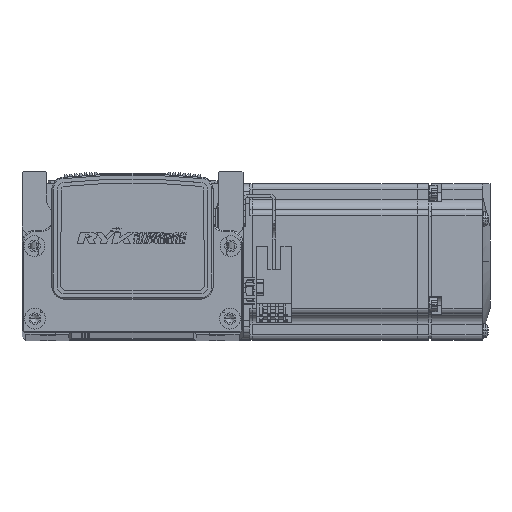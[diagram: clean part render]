
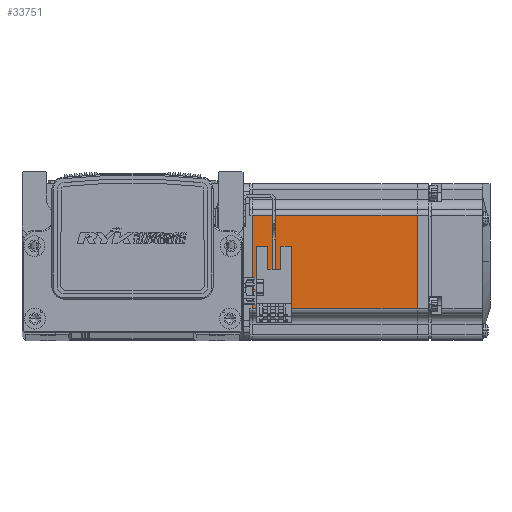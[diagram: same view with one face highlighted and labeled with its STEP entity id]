
A CAD part, top view. The second image highlights one B-rep face of the part: STEP entity #33751.
In plain terms, the highlighted planar face has unit normal (0, 0, 1) as drawn and (0, 0, -1) by its records, which use the part's own axes.
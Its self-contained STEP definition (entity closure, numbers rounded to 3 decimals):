
#1371 = CARTESIAN_POINT ( 'NONE',  ( -6.5, 18., -30. ) ) ;
#1372 = DIRECTION ( 'NONE',  ( 1., 0., 0. ) ) ;
#3146 = EDGE_CURVE ( 'NONE', #73554, #68743, #59212, .T. ) ;
#3271 = EDGE_CURVE ( 'NONE', #71660, #73554, #59255, .T. ) ;
#3324 = EDGE_CURVE ( 'NONE', #71370, #71660, #59351, .T. ) ;
#3356 = EDGE_CURVE ( 'NONE', #68743, #71370, #59342, .T. ) ;
#5675 = ORIENTED_EDGE ( 'NONE', *, *, #3271, .T. ) ;
#5686 = ORIENTED_EDGE ( 'NONE', *, *, #3146, .T. ) ;
#5688 = ORIENTED_EDGE ( 'NONE', *, *, #3356, .T. ) ;
#5693 = ORIENTED_EDGE ( 'NONE', *, *, #3324, .T. ) ;
#25707 = CARTESIAN_POINT ( 'NONE',  ( -7.75, 18., -30. ) ) ;
#30231 = CARTESIAN_POINT ( 'NONE',  ( -6.5, 25., -30. ) ) ;
#30251 = DIRECTION ( 'NONE',  ( 0., 0., -1. ) ) ;
#30264 = PLANE ( 'NONE',  #74945 ) ;
#30266 = DIRECTION ( 'NONE',  ( -1., 0., 0. ) ) ;
#33751 = ADVANCED_FACE ( 'NONE', ( #37135 ), #30264, .T. ) ;
#37135 = FACE_OUTER_BOUND ( 'NONE', #59363, .T. ) ;
#41485 = CARTESIAN_POINT ( 'NONE',  ( -7.75, 25., -30. ) ) ;
#41495 = DIRECTION ( 'NONE',  ( 0., -1., 0. ) ) ;
#41499 = DIRECTION ( 'NONE',  ( -1., 0., 0. ) ) ;
#41503 = CARTESIAN_POINT ( 'NONE',  ( -6.5, -18., -30. ) ) ;
#51014 = CARTESIAN_POINT ( 'NONE',  ( -70.95, 18., -30. ) ) ;
#51935 = CARTESIAN_POINT ( 'NONE',  ( -7.75, -18., -30. ) ) ;
#52471 = CARTESIAN_POINT ( 'NONE',  ( -70.95, -18., -30. ) ) ;
#56956 = CARTESIAN_POINT ( 'NONE',  ( -70.95, 25., -30. ) ) ;
#56986 = DIRECTION ( 'NONE',  ( 0., 1., 0. ) ) ;
#59212 = LINE ( 'NONE', #1371, #59231 ) ;
#59231 = VECTOR ( 'NONE', #1372, 1000. ) ;
#59235 = VECTOR ( 'NONE', #56986, 1000. ) ;
#59255 = LINE ( 'NONE', #56956, #59235 ) ;
#59308 = VECTOR ( 'NONE', #41499, 1000. ) ;
#59342 = LINE ( 'NONE', #41485, #59345 ) ;
#59345 = VECTOR ( 'NONE', #41495, 1000. ) ;
#59351 = LINE ( 'NONE', #41503, #59308 ) ;
#59363 = EDGE_LOOP ( 'NONE', ( #5688, #5693, #5675, #5686 ) ) ;
#68743 = VERTEX_POINT ( 'NONE', #25707 ) ;
#71370 = VERTEX_POINT ( 'NONE', #51935 ) ;
#71660 = VERTEX_POINT ( 'NONE', #52471 ) ;
#73554 = VERTEX_POINT ( 'NONE', #51014 ) ;
#74945 = AXIS2_PLACEMENT_3D ( 'NONE', #30231, #30251, #30266 ) ;
